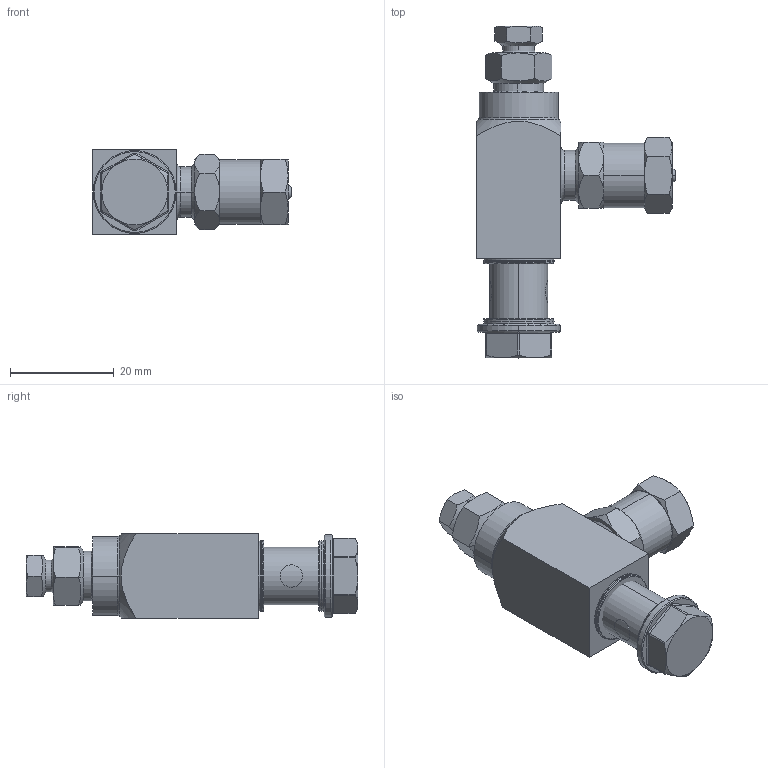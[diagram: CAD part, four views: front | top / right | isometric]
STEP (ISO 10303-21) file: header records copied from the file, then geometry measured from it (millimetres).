
FILE_DESCRIPTION((''),'2;1');
FILE_NAME('24W485-EN-C_PRT','2019-12-31T18:31:25',('qusrh3'),(''),'CREO PARAMETRIC BY PTC INC, 2019030','CREO PARAMETRIC BY PTC INC, 2019030','');
FILE_SCHEMA(('CONFIG_CONTROL_DESIGN'));
Length unit declared in the file: inch
Products named in the file (1): 24W485-EN-C_PRT
Bounding box: 38.37 x 64.06 x 16.36 mm (x, y, z)
Surface area: 6996.8 mm2 (no closed solid volume)
Topology: 0 solids, 19 shells, 172 faces, 386 edges, 232 vertices
Faces by surface type: cone 56, plane 52, cylinder 44, torus 20
Entity records: 5398 total; most frequent: CARTESIAN_POINT 1734, DIRECTION 760, ORIENTED_EDGE 722, EDGE_CURVE 386, AXIS2_PLACEMENT_3D 326, VERTEX_POINT 232, EDGE_LOOP 172, FACE_OUTER_BOUND 172
